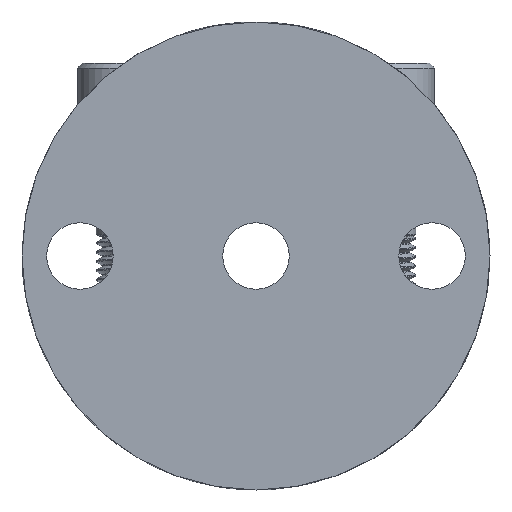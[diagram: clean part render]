
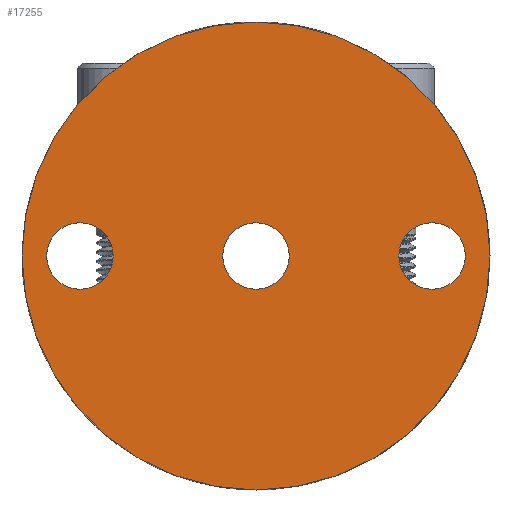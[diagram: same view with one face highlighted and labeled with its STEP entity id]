
A CAD part, left-side view. The second image highlights one B-rep face of the part: STEP entity #17255.
In plain terms, the highlighted planar face has unit normal (-1, 0, 0).
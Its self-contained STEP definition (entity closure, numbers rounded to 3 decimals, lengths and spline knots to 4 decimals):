
#184=FACE_BOUND('',#4023,.T.);
#185=FACE_BOUND('',#4024,.T.);
#186=FACE_BOUND('',#4025,.T.);
#537=CIRCLE('',#18248,1.495);
#563=CIRCLE('',#18318,0.2125);
#579=CIRCLE('',#18352,0.2125);
#582=CIRCLE('',#18358,0.2125);
#1024=PLANE('',#18435);
#2972=FACE_OUTER_BOUND('',#4022,.T.);
#4022=EDGE_LOOP('',(#15829));
#4023=EDGE_LOOP('',(#15830));
#4024=EDGE_LOOP('',(#15831));
#4025=EDGE_LOOP('',(#15832));
#8038=VERTEX_POINT('',#37580);
#8100=VERTEX_POINT('',#37864);
#8123=VERTEX_POINT('',#38086);
#8126=VERTEX_POINT('',#38095);
#10547=EDGE_CURVE('',#8038,#8038,#537,.T.);
#10617=EDGE_CURVE('',#8100,#8100,#563,.T.);
#10655=EDGE_CURVE('',#8123,#8123,#579,.T.);
#10658=EDGE_CURVE('',#8126,#8126,#582,.T.);
#15829=ORIENTED_EDGE('',*,*,#10547,.F.);
#15830=ORIENTED_EDGE('',*,*,#10617,.T.);
#15831=ORIENTED_EDGE('',*,*,#10658,.T.);
#15832=ORIENTED_EDGE('',*,*,#10655,.T.);
#17255=ADVANCED_FACE('',(#2972,#184,#185,#186),#1024,.T.);
#18248=AXIS2_PLACEMENT_3D('',#37581,#21399,#21400);
#18318=AXIS2_PLACEMENT_3D('',#37865,#21555,#21556);
#18352=AXIS2_PLACEMENT_3D('',#38087,#21629,#21630);
#18358=AXIS2_PLACEMENT_3D('',#38096,#21641,#21642);
#18435=AXIS2_PLACEMENT_3D('',#38283,#21801,#21802);
#21399=DIRECTION('center_axis',(1.,0.,0.));
#21400=DIRECTION('ref_axis',(0.,0.,-1.));
#21555=DIRECTION('center_axis',(1.,0.,0.));
#21556=DIRECTION('ref_axis',(0.,0.,-1.));
#21629=DIRECTION('center_axis',(1.,0.,0.));
#21630=DIRECTION('ref_axis',(0.,0.,-1.));
#21641=DIRECTION('center_axis',(1.,0.,0.));
#21642=DIRECTION('ref_axis',(0.,0.,-1.));
#21801=DIRECTION('center_axis',(-1.,0.,0.));
#21802=DIRECTION('ref_axis',(0.,0.,1.));
#37580=CARTESIAN_POINT('',(-0.0004,1.495,0.));
#37581=CARTESIAN_POINT('Origin',(-0.0004,0.,
0.));
#37864=CARTESIAN_POINT('',(-0.0004,0.,0.2125));
#37865=CARTESIAN_POINT('Origin',(-0.0004,0.,
0.));
#38086=CARTESIAN_POINT('',(-0.0004,1.125,0.2125));
#38087=CARTESIAN_POINT('Origin',(-0.0004,1.125,0.));
#38095=CARTESIAN_POINT('',(-0.0004,-1.125,0.2125));
#38096=CARTESIAN_POINT('Origin',(-0.0004,-1.125,0.));
#38283=CARTESIAN_POINT('Origin',(-0.0004,1.495,0.));
